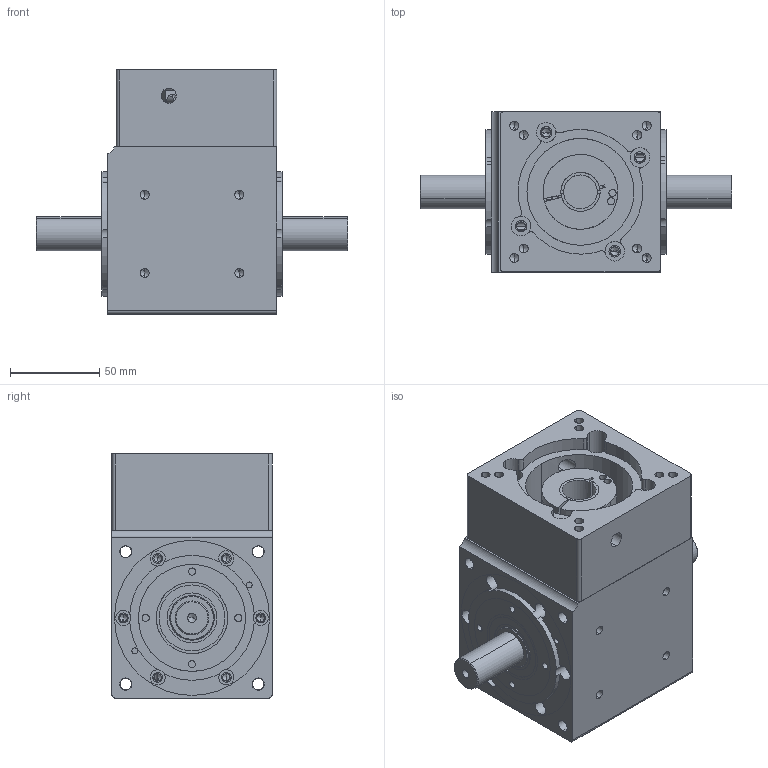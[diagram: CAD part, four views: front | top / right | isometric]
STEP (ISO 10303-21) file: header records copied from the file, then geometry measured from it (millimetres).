
FILE_DESCRIPTION (( 'STEP AP203' ), '1' );
FILE_NAME ('PVFH090邧粣蚾饜芞 ( 750 ).STEP', '2020-11-20T01:29:56', ( 'User' ), ( 'China' ), 'SwSTEP 2.0', 'SolidWorks 2015', '' );
FILE_SCHEMA (( 'CONFIG_CONTROL_DESIGN' ));
Length unit declared in the file: millimetre
Products named in the file (11): PVFH090邧粣蚾饜芞   ( 750 ); deep groove ball bearings gb_Rolling bearings 6005 GB 276-94; tapered roller bearings gb_Rolling bearings 32005 GB 297-94; PVFD090綴楊擘; PVFD090標杶; PVFD090蹟譫; PVFD090输入轴; ZK090怀堤粣; PVFDo9o眊极; 25-40-7蚐猾; PVFD090͹̨
Assembly tree (14 placements, depth 2):
  PVFH090邧粣蚾饜芞   ( 750 )
    PVFDo9o眊极
    PVFD090͹̨  x2
    deep groove ball bearings gb_Rolling bearings 6005 GB 276-94  x2
    tapered roller bearings gb_Rolling bearings 32005 GB 297-94
    PVFD090綴楊擘
    PVFD090標杶
    PVFD090蹟譫  x2
    PVFD090输入轴
    ZK090怀堤粣
    25-40-7蚐猾  x2
Bounding box: 175 x 90 x 137 mm (x, y, z)
Volume: 850633.7 mm3; surface area: 238794.7 mm2
Topology: 14 solids, 14 shells, 1006 faces, 3412 edges, 2208 vertices
Faces by surface type: cylinder 383, torus 224, plane 171, cone 152, sphere 76
Entity records: 33369 total; most frequent: CARTESIAN_POINT 10750, ORIENTED_EDGE 4770, DIRECTION 4354, EDGE_CURVE 2385, AXIS2_PLACEMENT_3D 1921, VERTEX_POINT 1563, CIRCLE 1118, EDGE_LOOP 960
